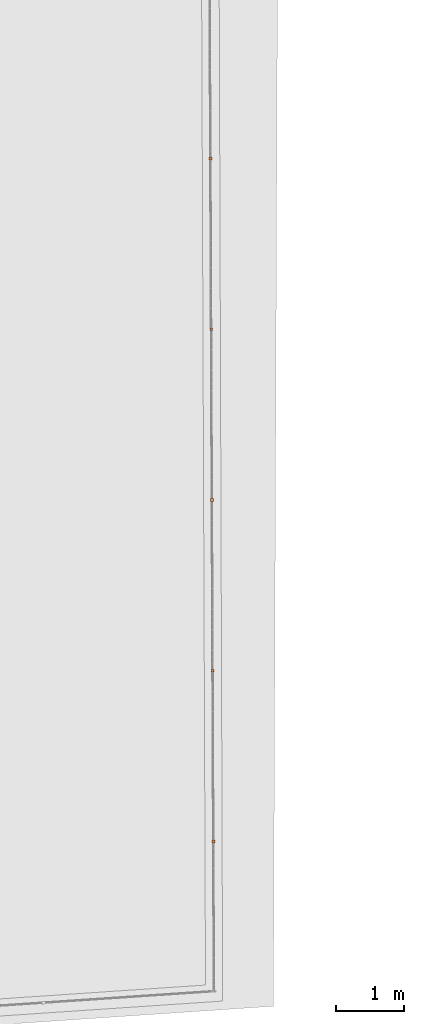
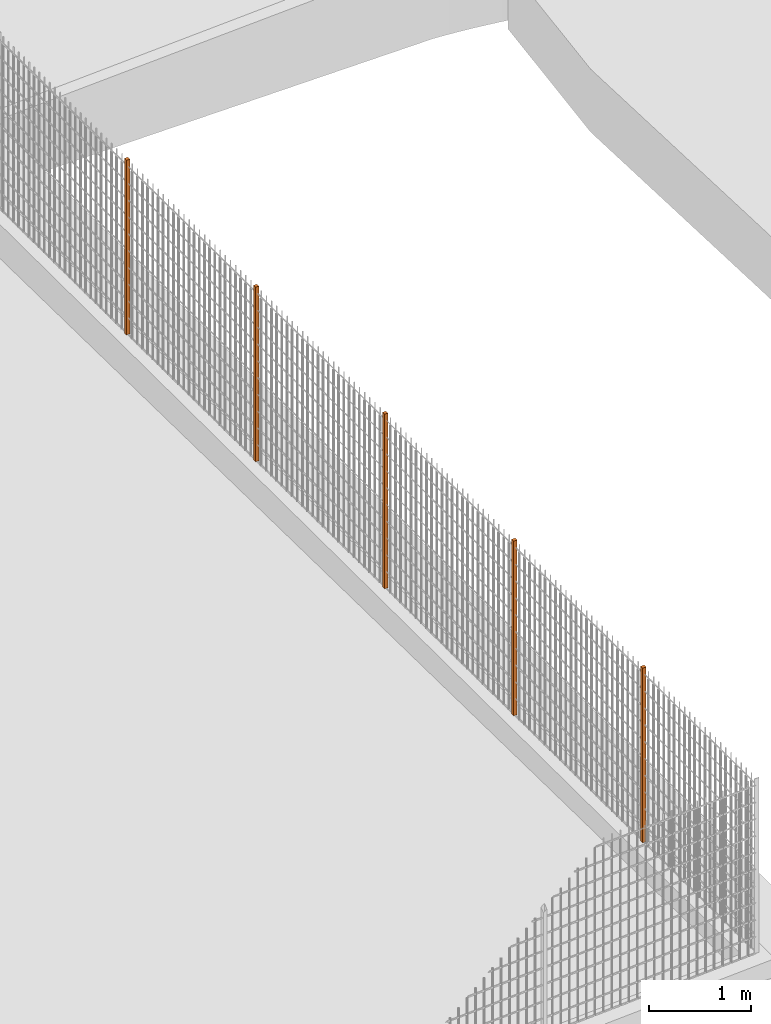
# One storey, part 11 of 1809: 5 proxies, 1 element without a shape of its own.
"""IFC2X3 building model written with IfcOpenShell, lengths in millimetres."""

from ifc_helpers import new_model, entity, si_unit, converted_unit, derived_unit, money_unit, direction, frame, origin_with_axes, place, context, subcontext, project, spatial, faceted_brep, source, transform, mapped, material, type_object, element, aggregate, save


model = new_model("IFC2X3")

# Units and contexts
model_context = context("Model", 3, precision=0.01, world=origin_with_axes(), true_north=direction((0.0, 1.0)))
body_context = subcontext(model_context, "Body", "Model", "MODEL_VIEW")
ifc_project = project(units=[si_unit("LENGTHUNIT", "METRE", prefix="MILLI"), si_unit("AREAUNIT", "SQUARE_METRE"), si_unit("VOLUMEUNIT", "CUBIC_METRE"), converted_unit("PLANEANGLEUNIT", "DEGREE", entity("IfcPlaneAngleMeasure", 0.0174532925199), si_unit("PLANEANGLEUNIT", "RADIAN"), dimensions=[0, 0, 0, 0, 0, 0, 0]), si_unit("SOLIDANGLEUNIT", "STERADIAN"), money_unit("EUR"), converted_unit("TIMEUNIT", "Year", entity("IfcTimeMeasure", 31556926.0), si_unit("TIMEUNIT", "SECOND"), dimensions=[0, 0, 1, 0, 0, 0, 0]), si_unit("MASSUNIT", "GRAM", prefix="KILO"), si_unit("THERMODYNAMICTEMPERATUREUNIT", "DEGREE_CELSIUS"), si_unit("LUMINOUSINTENSITYUNIT", "LUMEN"), si_unit("ENERGYUNIT", "JOULE", prefix="MEGA"), derived_unit("THERMALCONDUCTANCEUNIT", [(si_unit("POWERUNIT", "WATT"), 1), (si_unit("LENGTHUNIT", "METRE"), -1), (si_unit("THERMODYNAMICTEMPERATUREUNIT", "KELVIN"), -1)]), derived_unit("SPECIFICHEATCAPACITYUNIT", [(si_unit("ENERGYUNIT", "JOULE"), 1), (si_unit("MASSUNIT", "GRAM", prefix="KILO"), -1), (si_unit("THERMODYNAMICTEMPERATUREUNIT", "KELVIN"), -1)]), derived_unit("MASSDENSITYUNIT", [(si_unit("MASSUNIT", "GRAM", prefix="KILO"), 1), (si_unit("VOLUMEUNIT", "CUBIC_METRE"), -1)])], contexts=[model_context])

# Site, building, storey
site_placement = place(None, origin_with_axes())
site = spatial("IfcSite", under=ifc_project, at=site_placement, Name="Politse- ja Piirivalveameti ning Päästeameti ühishoone", CompositionType="ELEMENT")
building_placement = place(site_placement, origin_with_axes())
building = spatial("IfcBuilding", under=site, at=building_placement, Name="Politse- ja Piirivalveameti ning Päästeameti ühishoone", CompositionType="ELEMENT")
storey_placement = place(building_placement, origin_with_axes())
storey = spatial("IfcBuildingStorey", under=building, at=storey_placement, Name="Esimene korrus", CompositionType="ELEMENT", Elevation=0.0)

# Proxies
building_element_proxy_type_1 = type_object("IfcBuildingElementProxyType", Name="Railing Type", PredefinedType="NOTDEFINED")
proxy_1_placement = place(storey_placement, frame((89252.001212, -29183.4766571, 203.661247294), z_axis=(0.0, 0.0, 1.0), x_axis=(1.0, 0.0, 0.0)))
proxy_1 = element("IfcBuildingElementProxy", 1, at=proxy_1_placement, inside=storey, type_object=building_element_proxy_type_1, Name="PIIRDEAED")
ifc_material = material(Name="ET-03_Raud")
building_element_proxy_type_2 = type_object("IfcBuildingElementProxyType", Name="IfcBuildingElementProxy", PredefinedType="NOTDEFINED")
shared_shape = source(origin_with_axes(), body_context, "Body", "Brep", [
    faceted_brep([(20.0, 20.0, 0.0), (-20.0, 20.0, 0.0), (-20.0, 20.0, 2080.0), (20.0, 20.0, 2080.0), (20.0, -20.0, 0.0), (-20.0, -20.0, 0.0), (-20.0, -20.0, 2080.0), (20.0, -20.0, 2080.0)], [[[0, 1, 2, 3]], [[0, 4, 5, 1]], [[1, 5, 6, 2]], [[3, 2, 6, 7]], [[4, 0, 3, 7]], [[5, 4, 7, 6]]]),
])
proxy_2_placement = place(proxy_1_placement, frame((120.979595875, -5092.00986503, 27.2774504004), z_axis=(0.0, 0.0, 1.0), x_axis=(1.0, 0.0, 0.0)))
proxy_2 = element("IfcBuildingElementProxy", 2, at=proxy_2_placement, type_object=building_element_proxy_type_2, material=ifc_material, Name="SISEPOST - 001", context=body_context, shape_type="MappedRepresentation", body=[
    mapped(shared_shape, transform((0.0, 0.0, 0.0), x_axis=(-0.999990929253, -0.00425927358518, 0.0), y_axis=(0.00425927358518, -0.999990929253, 0.0), z_axis=(0.0, 0.0, 1.0))),
])
proxy_3_placement = place(proxy_1_placement, frame((131.627779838, -7591.98718816, 27.2774504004), z_axis=(0.0, 0.0, 1.0), x_axis=(1.0, 0.0, 0.0)))
proxy_3 = element("IfcBuildingElementProxy", 3, at=proxy_3_placement, type_object=building_element_proxy_type_2, material=ifc_material, Name="SISEPOST - 001", context=body_context, shape_type="MappedRepresentation", body=[
    mapped(shared_shape, transform((0.0, 0.0, 0.0), x_axis=(-0.999990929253, -0.00425927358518, 0.0), y_axis=(0.00425927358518, -0.999990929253, 0.0), z_axis=(0.0, 0.0, 1.0))),
])
proxy_4_placement = place(proxy_1_placement, frame((142.275963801, -10091.9645113, 27.2774504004), z_axis=(0.0, 0.0, 1.0), x_axis=(1.0, 0.0, 0.0)))
proxy_4 = element("IfcBuildingElementProxy", 4, at=proxy_4_placement, type_object=building_element_proxy_type_2, material=ifc_material, Name="SISEPOST - 001", context=body_context, shape_type="MappedRepresentation", body=[
    mapped(shared_shape, transform((0.0, 0.0, 0.0), x_axis=(-0.999990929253, -0.00425927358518, 0.0), y_axis=(0.00425927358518, -0.999990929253, 0.0), z_axis=(0.0, 0.0, 1.0))),
])
proxy_5_placement = place(proxy_1_placement, frame((152.924147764, -12591.9418344, 27.2774504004), z_axis=(0.0, 0.0, 1.0), x_axis=(1.0, 0.0, 0.0)))
proxy_5 = element("IfcBuildingElementProxy", 5, at=proxy_5_placement, type_object=building_element_proxy_type_2, material=ifc_material, Name="SISEPOST - 001", context=body_context, shape_type="MappedRepresentation", body=[
    mapped(shared_shape, transform((0.0, 0.0, 0.0), x_axis=(-0.999990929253, -0.00425927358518, 0.0), y_axis=(0.00425927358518, -0.999990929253, 0.0), z_axis=(0.0, 0.0, 1.0))),
])
proxy_6_placement = place(proxy_1_placement, frame((163.572331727, -15091.9191576, 27.2774504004), z_axis=(0.0, 0.0, 1.0), x_axis=(1.0, 0.0, 0.0)))
proxy_6 = element("IfcBuildingElementProxy", 6, at=proxy_6_placement, type_object=building_element_proxy_type_2, material=ifc_material, Name="SISEPOST - 001", context=body_context, shape_type="MappedRepresentation", body=[
    mapped(shared_shape, transform((0.0, 0.0, 0.0), x_axis=(-0.999990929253, -0.00425927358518, 0.0), y_axis=(0.00425927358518, -0.999990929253, 0.0), z_axis=(0.0, 0.0, 1.0))),
])
aggregate(proxy_1, [proxy_2, proxy_3, proxy_4, proxy_5, proxy_6])

save(model, "model.ifc")
